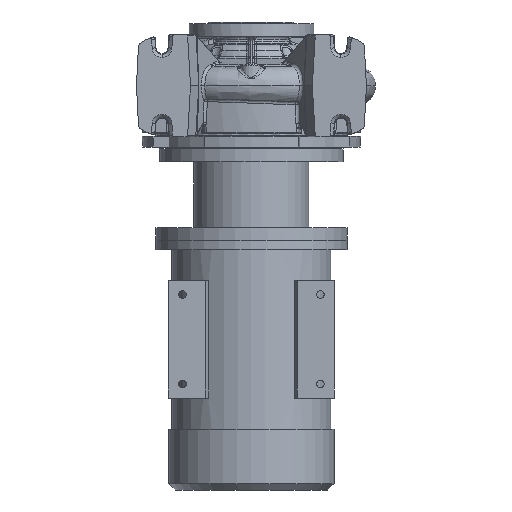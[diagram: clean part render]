
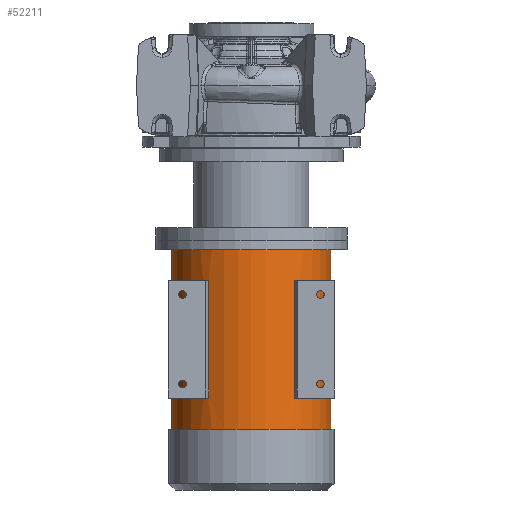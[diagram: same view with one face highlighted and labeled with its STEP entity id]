
A CAD part, front view. The second image highlights one B-rep face of the part: STEP entity #52211.
In plain terms, the highlighted cylindrical face has radius 124.5 mm (diameter 249 mm), a partial arc.
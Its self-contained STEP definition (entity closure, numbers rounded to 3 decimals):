
#353 = LINE ( 'NONE', #69586, #30937 ) ;
#871 = CARTESIAN_POINT ( 'NONE',  ( 124.5, 0., -537.8 ) ) ;
#2921 = CARTESIAN_POINT ( 'NONE',  ( -124.5, 0., -256.8 ) ) ;
#3059 = VECTOR ( 'NONE', #45515, 1000. ) ;
#5529 = EDGE_LOOP ( 'NONE', ( #21329, #17208, #69778, #18362 ) ) ;
#5994 = DIRECTION ( 'NONE',  ( 1., 0., 0. ) ) ;
#9025 = CARTESIAN_POINT ( 'NONE',  ( 0., 0., -632.8 ) ) ;
#9041 = EDGE_CURVE ( 'NONE', #61236, #34543, #43498, .T. ) ;
#10772 = CARTESIAN_POINT ( 'NONE',  ( 66.829, -105.044, -304.8 ) ) ;
#10796 = AXIS2_PLACEMENT_3D ( 'NONE', #46879, #83430, #60867 ) ;
#11428 = DIRECTION ( 'NONE',  ( 0., 0., -1. ) ) ;
#12430 = VERTEX_POINT ( 'NONE', #48977 ) ;
#13231 = CARTESIAN_POINT ( 'NONE',  ( -124.5, 0., -537.8 ) ) ;
#13395 = DIRECTION ( 'NONE',  ( -1., 0., 0. ) ) ;
#16591 = CARTESIAN_POINT ( 'NONE',  ( -66.829, -105.044, -304.8 ) ) ;
#17158 = DIRECTION ( 'NONE',  ( 0., 0., 1. ) ) ;
#17208 = ORIENTED_EDGE ( 'NONE', *, *, #67818, .T. ) ;
#17839 = ORIENTED_EDGE ( 'NONE', *, *, #88154, .F. ) ;
#18241 = VERTEX_POINT ( 'NONE', #89337 ) ;
#18362 = ORIENTED_EDGE ( 'NONE', *, *, #22096, .T. ) ;
#18676 = EDGE_CURVE ( 'NONE', #75247, #93187, #51651, .T. ) ;
#19575 = AXIS2_PLACEMENT_3D ( 'NONE', #38761, #17158, #25104 ) ;
#19976 = DIRECTION ( 'NONE',  ( 0., 0., -1. ) ) ;
#20032 = CARTESIAN_POINT ( 'NONE',  ( 0., 0., -488.8 ) ) ;
#21158 = EDGE_LOOP ( 'NONE', ( #90291, #40338, #72439, #90352 ) ) ;
#21329 = ORIENTED_EDGE ( 'NONE', *, *, #49808, .F. ) ;
#22096 = EDGE_CURVE ( 'NONE', #12430, #18241, #353, .T. ) ;
#22968 = CARTESIAN_POINT ( 'NONE',  ( -124.5, 0., -632.8 ) ) ;
#23309 = AXIS2_PLACEMENT_3D ( 'NONE', #20032, #93053, #77555 ) ;
#23837 = CARTESIAN_POINT ( 'NONE',  ( -75.873, -98.709, -632.8 ) ) ;
#25104 = DIRECTION ( 'NONE',  ( -1., 0., 0. ) ) ;
#25716 = LINE ( 'NONE', #45200, #3059 ) ;
#26068 = CARTESIAN_POINT ( 'NONE',  ( 0., 0., -256.8 ) ) ;
#30316 = DIRECTION ( 'NONE',  ( -1., 0., 0. ) ) ;
#30937 = VECTOR ( 'NONE', #91489, 1000. ) ;
#33437 = CIRCLE ( 'NONE', #38116, 124.5 ) ;
#34543 = VERTEX_POINT ( 'NONE', #88469 ) ;
#35546 = ORIENTED_EDGE ( 'NONE', *, *, #76353, .F. ) ;
#36556 = EDGE_CURVE ( 'NONE', #81921, #40578, #33437, .T. ) ;
#38116 = AXIS2_PLACEMENT_3D ( 'NONE', #56627, #78528, #13395 ) ;
#38455 = VECTOR ( 'NONE', #73471, 1000. ) ;
#38638 = VERTEX_POINT ( 'NONE', #38717 ) ;
#38717 = CARTESIAN_POINT ( 'NONE',  ( -66.829, -105.044, -488.8 ) ) ;
#38761 = CARTESIAN_POINT ( 'NONE',  ( 0., 0., -304.8 ) ) ;
#40338 = ORIENTED_EDGE ( 'NONE', *, *, #18676, .T. ) ;
#40578 = VERTEX_POINT ( 'NONE', #13231 ) ;
#41839 = AXIS2_PLACEMENT_3D ( 'NONE', #50403, #19976, #5994 ) ;
#43498 = LINE ( 'NONE', #23837, #68496 ) ;
#44571 = DIRECTION ( 'NONE',  ( 0., 0., -1. ) ) ;
#45200 = CARTESIAN_POINT ( 'NONE',  ( 66.829, -105.044, -632.8 ) ) ;
#45515 = DIRECTION ( 'NONE',  ( 0., 0., 1. ) ) ;
#46879 = CARTESIAN_POINT ( 'NONE',  ( 0., 0., -488.8 ) ) ;
#47224 = LINE ( 'NONE', #64459, #62025 ) ;
#47392 = FACE_BOUND ( 'NONE', #69569, .T. ) ;
#48578 = DIRECTION ( 'NONE',  ( -1., 0., 0. ) ) ;
#48977 = CARTESIAN_POINT ( 'NONE',  ( 75.873, -98.709, -304.8 ) ) ;
#49409 = EDGE_CURVE ( 'NONE', #75247, #81921, #61186, .T. ) ;
#49451 = CARTESIAN_POINT ( 'NONE',  ( -75.873, -98.709, -304.8 ) ) ;
#49808 = EDGE_CURVE ( 'NONE', #71311, #18241, #53273, .T. ) ;
#50403 = CARTESIAN_POINT ( 'NONE',  ( 0., 0., -304.8 ) ) ;
#50701 = AXIS2_PLACEMENT_3D ( 'NONE', #9025, #52606, #30316 ) ;
#51651 = CIRCLE ( 'NONE', #89714, 124.5 ) ;
#52211 = ADVANCED_FACE ( 'NONE', ( #54269, #59883, #47392 ), #55365, .T. ) ;
#52606 = DIRECTION ( 'NONE',  ( 0., 0., -1. ) ) ;
#53273 = CIRCLE ( 'NONE', #23309, 124.5 ) ;
#53938 = CIRCLE ( 'NONE', #41839, 124.5 ) ;
#54269 = FACE_OUTER_BOUND ( 'NONE', #21158, .T. ) ;
#55365 = CYLINDRICAL_SURFACE ( 'NONE', #50701, 124.5 ) ;
#56627 = CARTESIAN_POINT ( 'NONE',  ( 0., 0., -537.8 ) ) ;
#59883 = FACE_BOUND ( 'NONE', #5529, .T. ) ;
#60867 = DIRECTION ( 'NONE',  ( 1., 0., 0. ) ) ;
#61186 = LINE ( 'NONE', #71590, #38455 ) ;
#61236 = VERTEX_POINT ( 'NONE', #49451 ) ;
#62025 = VECTOR ( 'NONE', #63225, 1000. ) ;
#63225 = DIRECTION ( 'NONE',  ( 0., 0., 1. ) ) ;
#64459 = CARTESIAN_POINT ( 'NONE',  ( -66.829, -105.044, -632.8 ) ) ;
#67818 = EDGE_CURVE ( 'NONE', #71311, #79600, #25716, .T. ) ;
#68496 = VECTOR ( 'NONE', #11428, 1000. ) ;
#69569 = EDGE_LOOP ( 'NONE', ( #17839, #83422, #86479, #35546 ) ) ;
#69586 = CARTESIAN_POINT ( 'NONE',  ( 75.873, -98.709, -632.8 ) ) ;
#69778 = ORIENTED_EDGE ( 'NONE', *, *, #84335, .T. ) ;
#71311 = VERTEX_POINT ( 'NONE', #92687 ) ;
#71590 = CARTESIAN_POINT ( 'NONE',  ( 124.5, 0., -632.8 ) ) ;
#72439 = ORIENTED_EDGE ( 'NONE', *, *, #93857, .T. ) ;
#72865 = LINE ( 'NONE', #22968, #87620 ) ;
#73471 = DIRECTION ( 'NONE',  ( 0., 0., -1. ) ) ;
#74358 = CIRCLE ( 'NONE', #10796, 124.5 ) ;
#75247 = VERTEX_POINT ( 'NONE', #90341 ) ;
#76353 = EDGE_CURVE ( 'NONE', #82626, #61236, #53938, .T. ) ;
#77176 = EDGE_CURVE ( 'NONE', #38638, #34543, #74358, .T. ) ;
#77555 = DIRECTION ( 'NONE',  ( -1., 0., 0. ) ) ;
#78528 = DIRECTION ( 'NONE',  ( 0., 0., -1. ) ) ;
#79600 = VERTEX_POINT ( 'NONE', #10772 ) ;
#81921 = VERTEX_POINT ( 'NONE', #871 ) ;
#82626 = VERTEX_POINT ( 'NONE', #16591 ) ;
#83422 = ORIENTED_EDGE ( 'NONE', *, *, #77176, .T. ) ;
#83430 = DIRECTION ( 'NONE',  ( 0., 0., -1. ) ) ;
#84335 = EDGE_CURVE ( 'NONE', #79600, #12430, #86458, .T. ) ;
#86458 = CIRCLE ( 'NONE', #19575, 124.5 ) ;
#86479 = ORIENTED_EDGE ( 'NONE', *, *, #9041, .F. ) ;
#87620 = VECTOR ( 'NONE', #44571, 1000. ) ;
#88154 = EDGE_CURVE ( 'NONE', #38638, #82626, #47224, .T. ) ;
#88469 = CARTESIAN_POINT ( 'NONE',  ( -75.873, -98.709, -488.8 ) ) ;
#89337 = CARTESIAN_POINT ( 'NONE',  ( 75.873, -98.709, -488.8 ) ) ;
#89714 = AXIS2_PLACEMENT_3D ( 'NONE', #26068, #91805, #48578 ) ;
#90291 = ORIENTED_EDGE ( 'NONE', *, *, #49409, .F. ) ;
#90341 = CARTESIAN_POINT ( 'NONE',  ( 124.5, 0., -256.8 ) ) ;
#90352 = ORIENTED_EDGE ( 'NONE', *, *, #36556, .F. ) ;
#91489 = DIRECTION ( 'NONE',  ( 0., 0., -1. ) ) ;
#91805 = DIRECTION ( 'NONE',  ( 0., 0., -1. ) ) ;
#92687 = CARTESIAN_POINT ( 'NONE',  ( 66.829, -105.044, -488.8 ) ) ;
#93053 = DIRECTION ( 'NONE',  ( 0., 0., 1. ) ) ;
#93187 = VERTEX_POINT ( 'NONE', #2921 ) ;
#93857 = EDGE_CURVE ( 'NONE', #93187, #40578, #72865, .T. ) ;
